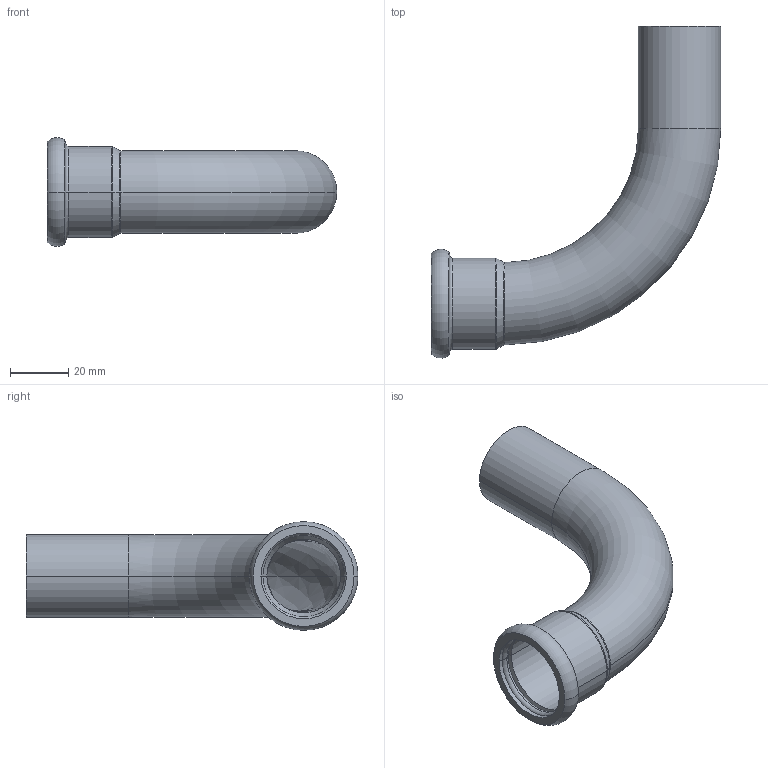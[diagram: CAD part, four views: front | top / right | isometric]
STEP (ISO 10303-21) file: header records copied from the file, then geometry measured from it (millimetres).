
FILE_DESCRIPTION (( 'STEP AP214' ), '1' );
FILE_NAME ('E28000B.STEP', '2025-08-17T07:54:02', ( '' ), ( '' ), 'SwSTEP 2.0', 'SolidWorks 2020', '' );
FILE_SCHEMA (( 'AUTOMOTIVE_DESIGN' ));
Length unit declared in the file: millimetre
Products named in the file (1): E28000B
Bounding box: 99.1 x 113.59 x 37.17 mm (x, y, z)
Volume: 21143.7 mm3; surface area: 28483.6 mm2
Topology: 2 solids, 2 shells, 39 faces, 84 edges, 48 vertices
Faces by surface type: torus 14, cylinder 10, cone 8, bspline 4, plane 3
Entity records: 2565 total; most frequent: CARTESIAN_POINT 1328, DIRECTION 196, ORIENTED_EDGE 168, AXIS2_PLACEMENT_3D 89, EDGE_CURVE 84, CIRCLE 53, VERTEX_POINT 48, EDGE_LOOP 42
